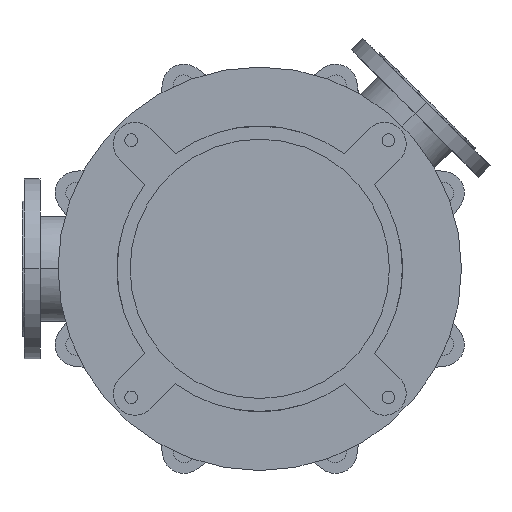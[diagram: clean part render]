
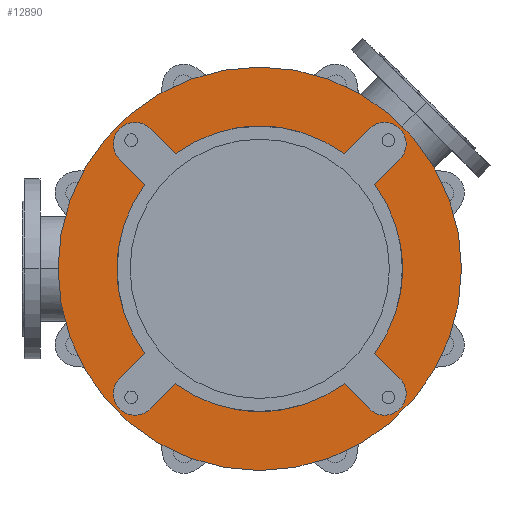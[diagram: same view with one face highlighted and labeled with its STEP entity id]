
A CAD part, front view. The second image highlights one B-rep face of the part: STEP entity #12890.
In plain terms, the highlighted planar face has unit normal (0, -1, 0).
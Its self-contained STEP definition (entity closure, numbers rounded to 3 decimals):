
#2530=CARTESIAN_POINT('',(0.,-25.,0.));
#2531=DIRECTION('',(0.,1.,0.));
#2532=DIRECTION('',(0.592,0.,-0.806));
#2533=AXIS2_PLACEMENT_3D('',#2530,#2531,#2532);
#2548=CARTESIAN_POINT('',(0.,-25.,0.));
#2549=DIRECTION('',(0.,1.,0.));
#2550=DIRECTION('',(0.806,0.,0.592));
#2551=AXIS2_PLACEMENT_3D('',#2548,#2549,#2550);
#2575=CARTESIAN_POINT('',(0.,-25.,0.));
#2576=DIRECTION('',(0.,1.,0.));
#2577=DIRECTION('',(-0.806,0.,-0.592));
#2578=AXIS2_PLACEMENT_3D('',#2575,#2576,#2577);
#2584=CARTESIAN_POINT('',(0.,-25.,0.));
#2585=DIRECTION('',(0.,1.,0.));
#2586=DIRECTION('',(-0.592,0.,0.806));
#2587=AXIS2_PLACEMENT_3D('',#2584,#2585,#2586);
#2762=CARTESIAN_POINT('',(0.,-25.,0.));
#2763=DIRECTION('',(0.,-1.,0.));
#2764=DIRECTION('',(-1.,0.,0.));
#2765=AXIS2_PLACEMENT_3D('',#2762,#2763,#2764);
#2767=CARTESIAN_POINT('',(0.,-25.,0.));
#2768=DIRECTION('',(0.,1.,0.));
#2769=DIRECTION('',(-1.,0.,0.));
#2770=AXIS2_PLACEMENT_3D('',#2767,#2768,#2769);
#2772=CARTESIAN_POINT('',(-173.241,-25.,173.241));
#2773=DIRECTION('',(0.,-1.,0.));
#2774=DIRECTION('',(0.707,0.,0.707));
#2775=AXIS2_PLACEMENT_3D('',#2772,#2773,#2774);
#2777=DIRECTION('',(0.707,0.,-0.707));
#2778=VECTOR('',#2777,49.286);
#2779=CARTESIAN_POINT('',(-194.454,-25.,152.028));
#2780=LINE('',#2779,#2778);
#2781=DIRECTION('',(-0.707,0.,-0.707));
#2782=VECTOR('',#2781,49.286);
#2783=CARTESIAN_POINT('',(-159.604,-25.,-117.178));
#2784=LINE('',#2783,#2782);
#2785=CARTESIAN_POINT('',(-173.241,-25.,-173.241));
#2786=DIRECTION('',(0.,-1.,0.));
#2787=DIRECTION('',(-0.707,0.,0.707));
#2788=AXIS2_PLACEMENT_3D('',#2785,#2786,#2787);
#2790=DIRECTION('',(0.707,0.,0.707));
#2791=VECTOR('',#2790,49.286);
#2792=CARTESIAN_POINT('',(-152.028,-25.,-194.454));
#2793=LINE('',#2792,#2791);
#2794=DIRECTION('',(0.707,0.,-0.707));
#2795=VECTOR('',#2794,49.286);
#2796=CARTESIAN_POINT('',(117.178,-25.,-159.604));
#2797=LINE('',#2796,#2795);
#2798=CARTESIAN_POINT('',(173.241,-25.,-173.241));
#2799=DIRECTION('',(0.,-1.,0.));
#2800=DIRECTION('',(-0.707,0.,-0.707));
#2801=AXIS2_PLACEMENT_3D('',#2798,#2799,#2800);
#2803=DIRECTION('',(-0.707,0.,0.707));
#2804=VECTOR('',#2803,49.286);
#2805=CARTESIAN_POINT('',(194.454,-25.,-152.028));
#2806=LINE('',#2805,#2804);
#2807=DIRECTION('',(0.707,0.,0.707));
#2808=VECTOR('',#2807,49.286);
#2809=CARTESIAN_POINT('',(159.604,-25.,117.178));
#2810=LINE('',#2809,#2808);
#2811=CARTESIAN_POINT('',(173.241,-25.,173.241));
#2812=DIRECTION('',(0.,-1.,0.));
#2813=DIRECTION('',(0.707,0.,-0.707));
#2814=AXIS2_PLACEMENT_3D('',#2811,#2812,#2813);
#2816=DIRECTION('',(-0.707,0.,-0.707));
#2817=VECTOR('',#2816,49.286);
#2818=CARTESIAN_POINT('',(152.028,-25.,194.454));
#2819=LINE('',#2818,#2817);
#2820=DIRECTION('',(-0.707,0.,0.707));
#2821=VECTOR('',#2820,49.286);
#2822=CARTESIAN_POINT('',(-117.178,-25.,159.604));
#2823=LINE('',#2822,#2821);
#8403=CARTESIAN_POINT('',(-280.,-25.,0.));
#8404=CARTESIAN_POINT('',(280.,-25.,0.));
#8405=VERTEX_POINT('',#8403);
#8406=VERTEX_POINT('',#8404);
#8427=CARTESIAN_POINT('',(-194.454,-25.,-152.028));
#8428=CARTESIAN_POINT('',(-152.028,-25.,-194.454));
#8429=VERTEX_POINT('',#8427);
#8430=VERTEX_POINT('',#8428);
#8431=CARTESIAN_POINT('',(-117.178,-25.,-159.604));
#8432=VERTEX_POINT('',#8431);
#8433=CARTESIAN_POINT('',(-159.604,-25.,-117.178));
#8434=VERTEX_POINT('',#8433);
#8443=CARTESIAN_POINT('',(152.028,-25.,-194.454));
#8444=CARTESIAN_POINT('',(194.454,-25.,-152.028));
#8445=VERTEX_POINT('',#8443);
#8446=VERTEX_POINT('',#8444);
#8447=CARTESIAN_POINT('',(159.604,-25.,-117.178));
#8448=VERTEX_POINT('',#8447);
#8449=CARTESIAN_POINT('',(117.178,-25.,-159.604));
#8450=VERTEX_POINT('',#8449);
#8459=CARTESIAN_POINT('',(194.454,-25.,152.028));
#8460=CARTESIAN_POINT('',(152.028,-25.,194.454));
#8461=VERTEX_POINT('',#8459);
#8462=VERTEX_POINT('',#8460);
#8463=CARTESIAN_POINT('',(117.178,-25.,159.604));
#8464=VERTEX_POINT('',#8463);
#8465=CARTESIAN_POINT('',(159.604,-25.,117.178));
#8466=VERTEX_POINT('',#8465);
#8475=CARTESIAN_POINT('',(-152.028,-25.,194.454));
#8476=CARTESIAN_POINT('',(-194.454,-25.,152.028));
#8477=VERTEX_POINT('',#8475);
#8478=VERTEX_POINT('',#8476);
#8479=CARTESIAN_POINT('',(-159.604,-25.,117.178));
#8480=VERTEX_POINT('',#8479);
#8481=CARTESIAN_POINT('',(-117.178,-25.,159.604));
#8482=VERTEX_POINT('',#8481);
#12850=CARTESIAN_POINT('',(0.,-25.,0.));
#12851=DIRECTION('',(0.,-1.,0.));
#12852=DIRECTION('',(-1.,0.,0.));
#12853=AXIS2_PLACEMENT_3D('',#12850,#12851,#12852);
#12854=PLANE('',#12853);
#12856=ORIENTED_EDGE('',*,*,#12855,.F.);
#12858=ORIENTED_EDGE('',*,*,#12857,.T.);
#12859=EDGE_LOOP('',(#12856,#12858));
#12860=FACE_OUTER_BOUND('',#12859,.F.);
#12862=ORIENTED_EDGE('',*,*,#12861,.T.);
#12864=ORIENTED_EDGE('',*,*,#12863,.T.);
#12865=ORIENTED_EDGE('',*,*,#12803,.F.);
#12867=ORIENTED_EDGE('',*,*,#12866,.T.);
#12869=ORIENTED_EDGE('',*,*,#12868,.T.);
#12871=ORIENTED_EDGE('',*,*,#12870,.T.);
#12872=ORIENTED_EDGE('',*,*,#12756,.F.);
#12873=ORIENTED_EDGE('',*,*,#12840,.T.);
#12875=ORIENTED_EDGE('',*,*,#12874,.T.);
#12877=ORIENTED_EDGE('',*,*,#12876,.T.);
#12878=ORIENTED_EDGE('',*,*,#12777,.F.);
#12880=ORIENTED_EDGE('',*,*,#12879,.T.);
#12882=ORIENTED_EDGE('',*,*,#12881,.T.);
#12884=ORIENTED_EDGE('',*,*,#12883,.T.);
#12885=ORIENTED_EDGE('',*,*,#12821,.F.);
#12887=ORIENTED_EDGE('',*,*,#12886,.T.);
#12888=EDGE_LOOP('',(#12862,#12864,#12865,#12867,#12869,#12871,#12872,#12873,
#12875,#12877,#12878,#12880,#12882,#12884,#12885,#12887));
#12889=FACE_BOUND('',#12888,.F.);
#12890=ADVANCED_FACE('',(#12860,#12889),#12854,.T.);
#2534=CIRCLE('',#2533,198.);
#2552=CIRCLE('',#2551,198.);
#2579=CIRCLE('',#2578,198.);
#2588=CIRCLE('',#2587,198.);
#2766=CIRCLE('',#2765,280.);
#2771=CIRCLE('',#2770,280.);
#2776=CIRCLE('',#2775,30.);
#2789=CIRCLE('',#2788,30.);
#2802=CIRCLE('',#2801,30.);
#2815=CIRCLE('',#2814,30.);
#12756=EDGE_CURVE('',#8450,#8432,#2534,.T.);
#12777=EDGE_CURVE('',#8466,#8448,#2552,.T.);
#12803=EDGE_CURVE('',#8434,#8480,#2579,.T.);
#12821=EDGE_CURVE('',#8482,#8464,#2588,.T.);
#12840=EDGE_CURVE('',#8450,#8445,#2797,.T.);
#12855=EDGE_CURVE('',#8405,#8406,#2766,.T.);
#12857=EDGE_CURVE('',#8405,#8406,#2771,.T.);
#12861=EDGE_CURVE('',#8477,#8478,#2776,.T.);
#12863=EDGE_CURVE('',#8478,#8480,#2780,.T.);
#12866=EDGE_CURVE('',#8434,#8429,#2784,.T.);
#12868=EDGE_CURVE('',#8429,#8430,#2789,.T.);
#12870=EDGE_CURVE('',#8430,#8432,#2793,.T.);
#12874=EDGE_CURVE('',#8445,#8446,#2802,.T.);
#12876=EDGE_CURVE('',#8446,#8448,#2806,.T.);
#12879=EDGE_CURVE('',#8466,#8461,#2810,.T.);
#12881=EDGE_CURVE('',#8461,#8462,#2815,.T.);
#12883=EDGE_CURVE('',#8462,#8464,#2819,.T.);
#12886=EDGE_CURVE('',#8482,#8477,#2823,.T.);
